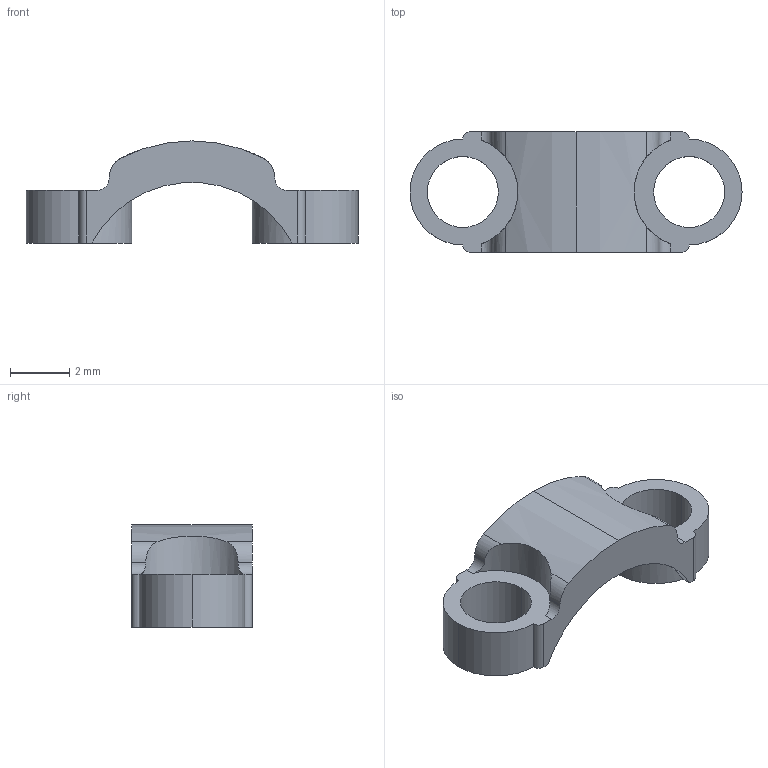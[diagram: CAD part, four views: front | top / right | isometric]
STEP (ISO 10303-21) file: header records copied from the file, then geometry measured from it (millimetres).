
FILE_DESCRIPTION (( 'STEP AP214' ), '1' );
FILE_NAME ('LHDX0307140A A3.step', '2020-04-16T20:19:19', ( '' ), ( '' ), 'SwSTEP 2.0', 'SolidWorks 2019', '' );
FILE_SCHEMA (( 'AUTOMOTIVE_DESIGN' ));
Length unit declared in the file: inch
Products named in the file (1): LHDX0307140A A3
Bounding box: 11.18 x 4.06 x 3.44 mm (x, y, z)
Volume: 49.8 mm3; surface area: 157.1 mm2
Topology: 1 solids, 1 shells, 38 faces, 108 edges, 72 vertices
Faces by surface type: cylinder 28, plane 10
Entity records: 1392 total; most frequent: CARTESIAN_POINT 337, ORIENTED_EDGE 216, DIRECTION 214, EDGE_CURVE 108, AXIS2_PLACEMENT_3D 81, VERTEX_POINT 72, VECTOR 52, LINE 52
